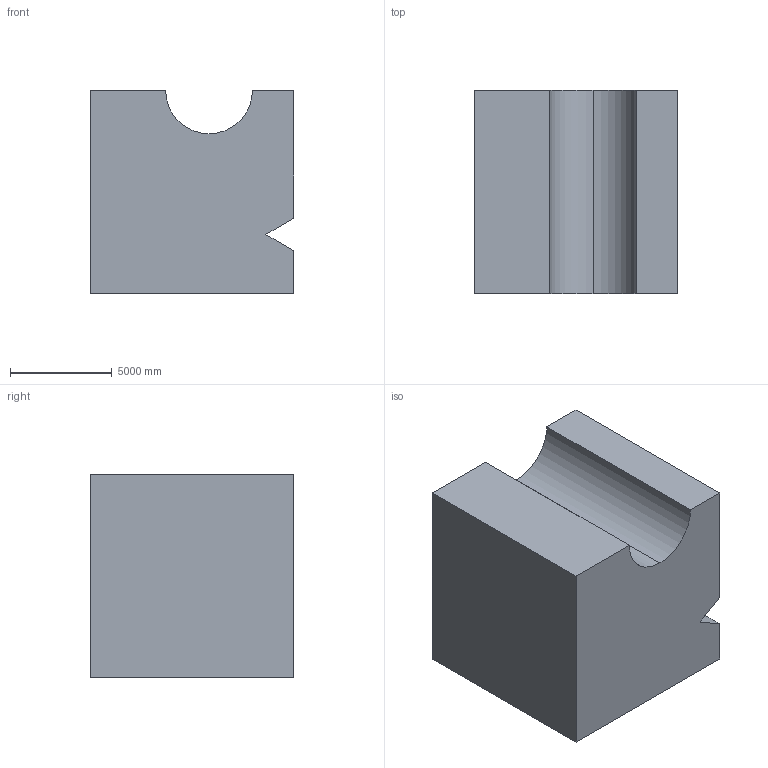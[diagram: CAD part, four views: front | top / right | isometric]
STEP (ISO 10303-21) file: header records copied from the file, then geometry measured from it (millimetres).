
FILE_DESCRIPTION (( 'STEP AP203' ), '1' );
FILE_NAME ('1172.STEP', '2022-08-18T13:02:36', ( 'user' ), ( '' ), 'SwSTEP 2.0', 'SolidWorks 2021', '' );
FILE_SCHEMA (( 'CONFIG_CONTROL_DESIGN' ));
Length unit declared in the file: centimetre
Products named in the file (1): 1172
Bounding box: 10000 x 10000 x 10000 mm (x, y, z)
Volume: 917595951903.2 mm3; surface area: 623682718.2 mm2
Topology: 1 solids, 1 shells, 12 faces, 30 edges, 20 vertices
Faces by surface type: plane 10, cylinder 2
Entity records: 435 total; most frequent: CARTESIAN_POINT 63, DIRECTION 60, ORIENTED_EDGE 60, EDGE_CURVE 30, VECTOR 26, LINE 26, VERTEX_POINT 20, AXIS2_PLACEMENT_3D 17
